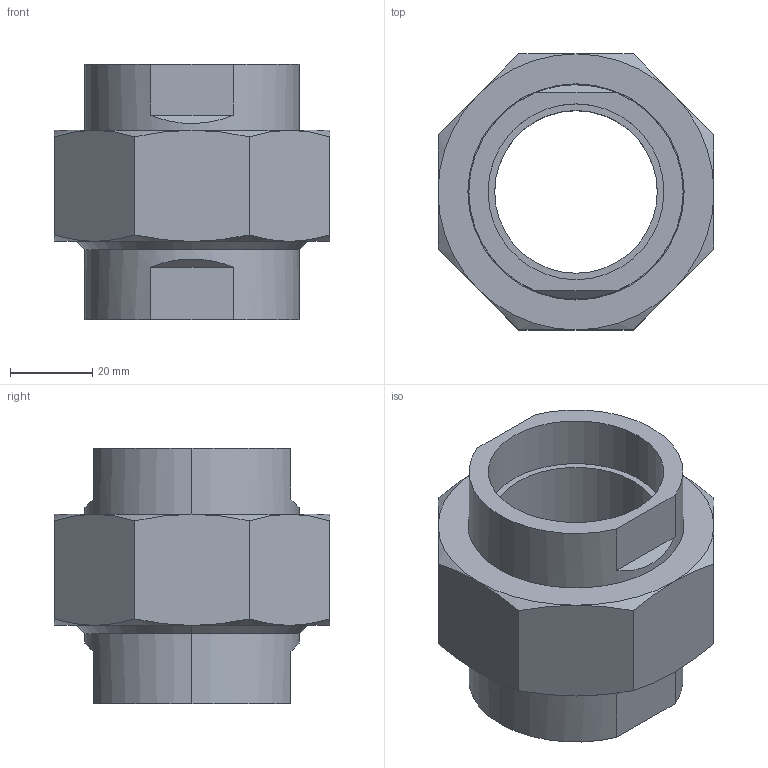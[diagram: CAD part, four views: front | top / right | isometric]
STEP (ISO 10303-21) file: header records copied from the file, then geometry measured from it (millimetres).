
FILE_DESCRIPTION (( 'STEP AP203' ), '1' );
FILE_NAME ('12-0131-11_outokumpu.step', '2015-08-12T08:09:41', ( '' ), ( '' ), 'SwSTEP 2.0', 'SolidWorks 2008', '' );
FILE_SCHEMA (( 'CONFIG_CONTROL_DESIGN' ));
Length unit declared in the file: millimetre
Products named in the file (4): 12-0131-11_outokumpu; nut-13-222-050_outokumpu_nut-13-222-050_outokumpu; case-13-555-384_outokumpu_case-13-555-384_outokumpu; nipple-13-444-204_outokumpu_nipple-13-444-204_outokumpu
Assembly tree (3 placements, depth 2):
  12-0131-11_outokumpu
    nipple-13-444-204_outokumpu_nipple-13-444-204_outokumpu
    case-13-555-384_outokumpu_case-13-555-384_outokumpu
    nut-13-222-050_outokumpu_nut-13-222-050_outokumpu
Bounding box: 67 x 67 x 62 mm (x, y, z)
Volume: 85073.6 mm3; surface area: 37850.2 mm2
Topology: 3 solids, 3 shells, 72 faces, 158 edges, 98 vertices
Faces by surface type: plane 28, cone 24, cylinder 20
Entity records: 2546 total; most frequent: CARTESIAN_POINT 554, DIRECTION 348, ORIENTED_EDGE 316, EDGE_CURVE 158, AXIS2_PLACEMENT_3D 148, VERTEX_POINT 98, EDGE_LOOP 84, ADVANCED_FACE 72
